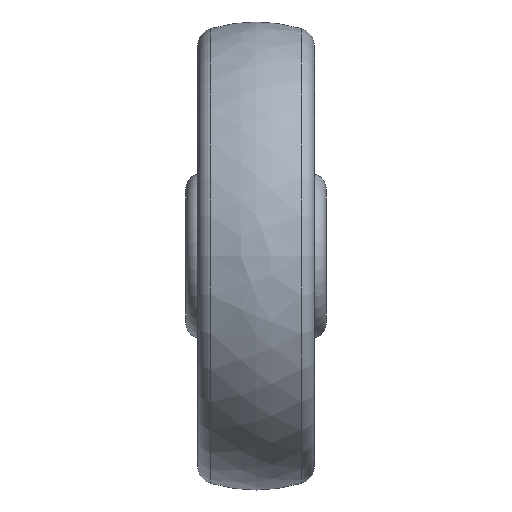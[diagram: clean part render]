
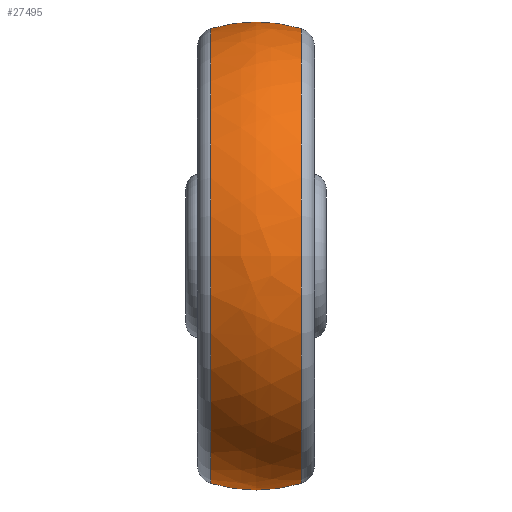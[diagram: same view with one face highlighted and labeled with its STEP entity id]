
A CAD part, top view. The second image highlights one B-rep face of the part: STEP entity #27495.
In plain terms, the highlighted free-form (B-spline) face has degree [3, 3] with [7, 4] control points.
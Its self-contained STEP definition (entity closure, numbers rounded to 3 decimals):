
#27281=CARTESIAN_POINT('',(0.,24.372,0.));
#27282=DIRECTION('',(0.,0.,1.));
#27283=DIRECTION('',(0.286,0.958,0.));
#27284=AXIS2_PLACEMENT_3D('',#27281,#27282,#27283);
#27291=CARTESIAN_POINT('',(0.,-24.372,0.));
#27292=DIRECTION('',(0.,0.,-1.));
#27293=DIRECTION('',(0.286,-0.958,0.));
#27294=AXIS2_PLACEMENT_3D('',#27291,#27292,#27293);
#27296=CARTESIAN_POINT('',(14.464,0.,0.));
#27297=DIRECTION('',(-1.,0.,0.));
#27298=DIRECTION('',(0.,-1.,0.));
#27299=AXIS2_PLACEMENT_3D('',#27296,#27297,#27298);
#27301=CARTESIAN_POINT('',(-14.464,0.,0.));
#27302=DIRECTION('',(-1.,0.,0.));
#27303=DIRECTION('',(0.,-1.,0.));
#27304=AXIS2_PLACEMENT_3D('',#27301,#27302,#27303);
#27349=CARTESIAN_POINT('',(14.464,72.89,0.));
#27350=CARTESIAN_POINT('',(14.464,-72.89,
0.));
#27351=VERTEX_POINT('',#27349);
#27352=VERTEX_POINT('',#27350);
#27361=CARTESIAN_POINT('',(-14.464,72.89,0.));
#27362=CARTESIAN_POINT('',(-14.464,-72.89,
0.));
#27363=VERTEX_POINT('',#27361);
#27364=VERTEX_POINT('',#27362);
#27458=CARTESIAN_POINT('',(-15.025,72.575,
-4.566));
#27459=CARTESIAN_POINT('',(-5.164,75.634,
-4.759));
#27460=CARTESIAN_POINT('',(5.164,75.634,
-4.759));
#27461=CARTESIAN_POINT('',(15.025,72.575,
-4.566));
#27462=CARTESIAN_POINT('',(-15.025,75.385,
40.097));
#27463=CARTESIAN_POINT('',(-5.164,78.563,
41.787));
#27464=CARTESIAN_POINT('',(5.164,78.563,41.787));
#27465=CARTESIAN_POINT('',(15.025,75.385,40.097));
#27466=CARTESIAN_POINT('',(-15.025,44.751,
72.719));
#27467=CARTESIAN_POINT('',(-5.164,46.637,
75.784));
#27468=CARTESIAN_POINT('',(5.164,46.637,75.784));
#27469=CARTESIAN_POINT('',(15.025,44.751,72.719));
#27470=CARTESIAN_POINT('',(-15.025,0.,72.719));
#27471=CARTESIAN_POINT('',(-5.164,0.,75.784));
#27472=CARTESIAN_POINT('',(5.164,0.,75.784));
#27473=CARTESIAN_POINT('',(15.025,0.,72.719));
#27474=CARTESIAN_POINT('',(-15.025,-44.751,
72.719));
#27475=CARTESIAN_POINT('',(-5.164,-46.637,
75.784));
#27476=CARTESIAN_POINT('',(5.164,-46.637,
75.784));
#27477=CARTESIAN_POINT('',(15.025,-44.751,
72.719));
#27478=CARTESIAN_POINT('',(-15.025,-75.385,
40.097));
#27479=CARTESIAN_POINT('',(-5.164,-78.563,
41.787));
#27480=CARTESIAN_POINT('',(5.164,-78.563,
41.787));
#27481=CARTESIAN_POINT('',(15.025,-75.385,
40.097));
#27482=CARTESIAN_POINT('',(-15.025,-72.575,
-4.566));
#27483=CARTESIAN_POINT('',(-5.164,-75.634,
-4.759));
#27484=CARTESIAN_POINT('',(5.164,-75.634,
-4.759));
#27485=CARTESIAN_POINT('',(15.025,-72.575,
-4.566));
#27486=(BOUNDED_SURFACE()B_SPLINE_SURFACE(3,3,((#27458,#27459,#27460,#27461),(
#27462,#27463,#27464,#27465),(#27466,#27467,#27468,#27469),(#27470,#27471,
#27472,#27473),(#27474,#27475,#27476,#27477),(#27478,#27479,#27480,#27481),(
#27482,#27483,#27484,#27485)),.UNSPECIFIED.,.F.,.F.,.F.)B_SPLINE_SURFACE_WITH_KNOTS((4,3,4),(4,4),(0.,1.,2.),(0.,1.),.UNSPECIFIED.)GEOMETRIC_REPRESENTATION_ITEM()RATIONAL_B_SPLINE_SURFACE(((1.215,1.178,
1.178,1.215),(0.959,0.93,
0.93,0.959),(0.959,0.93,
0.93,0.959),(1.215,1.178,
1.178,1.215),(0.959,0.93,
0.93,0.959),(0.959,0.93,
0.93,0.959),(1.215,1.178,
1.178,1.215)))REPRESENTATION_ITEM('')SURFACE());
#27488=ORIENTED_EDGE('',*,*,#27487,.F.);
#27489=ORIENTED_EDGE('',*,*,#27446,.T.);
#27491=ORIENTED_EDGE('',*,*,#27490,.T.);
#27492=ORIENTED_EDGE('',*,*,#27442,.F.);
#27493=EDGE_LOOP('',(#27488,#27489,#27491,#27492));
#27494=FACE_OUTER_BOUND('',#27493,.F.);
#27285=CIRCLE('',#27284,50.628);
#27295=CIRCLE('',#27294,50.628);
#27300=CIRCLE('',#27299,72.89);
#27305=CIRCLE('',#27304,72.89);
#27442=EDGE_CURVE('',#27351,#27363,#27285,.T.);
#27446=EDGE_CURVE('',#27352,#27364,#27295,.T.);
#27487=EDGE_CURVE('',#27352,#27351,#27300,.T.);
#27490=EDGE_CURVE('',#27364,#27363,#27305,.T.);
#27495=ADVANCED_FACE('',(#27494),#27486,.T.);
